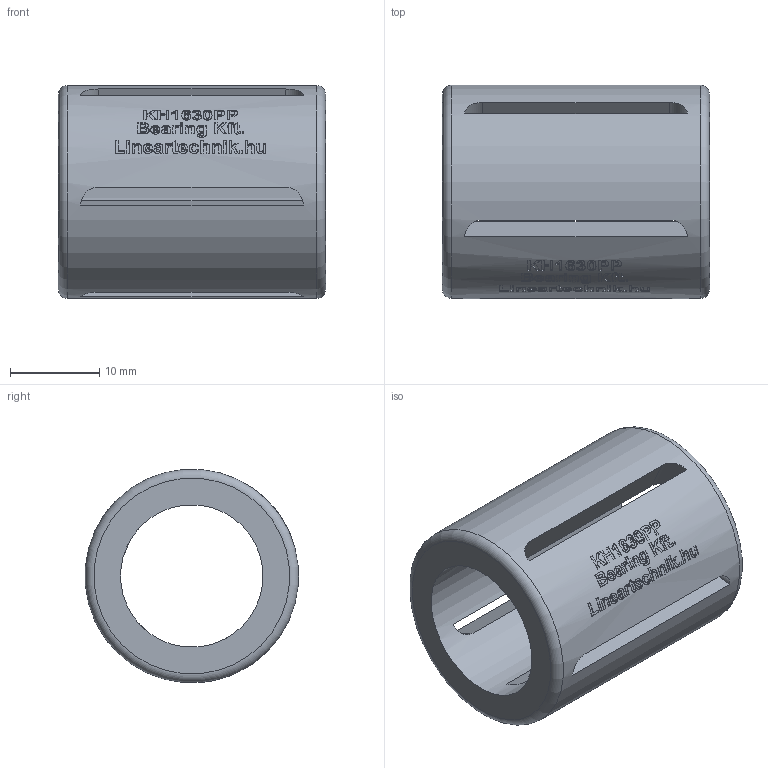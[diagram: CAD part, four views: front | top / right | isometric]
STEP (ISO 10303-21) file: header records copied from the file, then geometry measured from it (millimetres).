
FILE_DESCRIPTION(/* description */ (''),/* implementation_level */ '2;1');
FILE_NAME(/* name */ 'KH1630PP',/* time_stamp */ '2019-07-11T11:31:24+02:00',/* author */ ('VĂ©gh MĂˇtĂ©'),/* organization */ ('Bearing Kft'),/* preprocessor_version */ 'ST-DEVELOPER v16.7',/* originating_system */ 'DEX',/* authorisation */ $);
FILE_SCHEMA (('AUTOMOTIVE_DESIGN {1 0 10303 214 3 1 1}'));
Length unit declared in the file: millimetre
Products named in the file (1): KH1630PP
Bounding box: 30 x 23.95 x 23.91 mm (x, y, z)
Volume: 6533.1 mm3; surface area: 4796.8 mm2
Topology: 1 solids, 1 shells, 338 faces, 857 edges, 571 vertices
Faces by surface type: plane 172, bspline 102, cylinder 62, torus 2
Full cylindrical faces by diameter (mm): 16 x1, 24 x1
Entity records: 15648 total; most frequent: CARTESIAN_POINT 8039, ORIENTED_EDGE 1698, DIRECTION 1255, EDGE_CURVE 849, VERTEX_POINT 571, LINE 467, VECTOR 467, EDGE_LOOP 408
